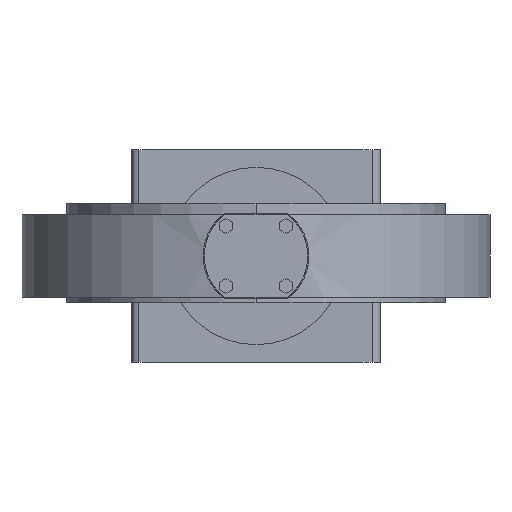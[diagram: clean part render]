
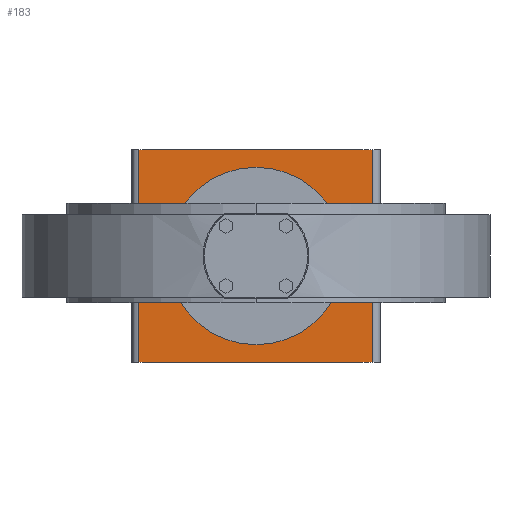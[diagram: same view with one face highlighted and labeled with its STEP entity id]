
A CAD part, front view. The second image highlights one B-rep face of the part: STEP entity #183.
In plain terms, the highlighted planar face has unit normal (0, -1, 0).
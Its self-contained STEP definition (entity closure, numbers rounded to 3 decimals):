
#183 = ADVANCED_FACE( '', ( #543, #544 ), #545, .T. );
#543 = FACE_OUTER_BOUND( '', #1101, .T. );
#544 = FACE_BOUND( '', #1102, .T. );
#545 = PLANE( '', #1103 );
#1101 = EDGE_LOOP( '', ( #2244, #2245, #2246, #2247 ) );
#1102 = EDGE_LOOP( '', ( #2248, #2249 ) );
#1103 = AXIS2_PLACEMENT_3D( '', #2250, #2251, #2252 );
#2244 = ORIENTED_EDGE( '', *, *, #3745, .T. );
#2245 = ORIENTED_EDGE( '', *, *, #3746, .F. );
#2246 = ORIENTED_EDGE( '', *, *, #3747, .F. );
#2247 = ORIENTED_EDGE( '', *, *, #3748, .T. );
#2248 = ORIENTED_EDGE( '', *, *, #3562, .T. );
#2249 = ORIENTED_EDGE( '', *, *, #3749, .T. );
#2250 = CARTESIAN_POINT( '', ( -165., 515., 150. ) );
#2251 = DIRECTION( '', ( 0., -1., 0. ) );
#2252 = DIRECTION( '', ( -1., 0., 0. ) );
#3562 = EDGE_CURVE( '', #4347, #4351, #4353, .T. );
#3745 = EDGE_CURVE( '', #4655, #4656, #4657, .T. );
#3746 = EDGE_CURVE( '', #4658, #4656, #4659, .T. );
#3747 = EDGE_CURVE( '', #4660, #4658, #4661, .T. );
#3748 = EDGE_CURVE( '', #4660, #4655, #4662, .T. );
#3749 = EDGE_CURVE( '', #4351, #4347, #4663, .T. );
#4347 = VERTEX_POINT( '', #5968 );
#4351 = VERTEX_POINT( '', #5973 );
#4353 = CIRCLE( '', #5976, 125. );
#4655 = VERTEX_POINT( '', #6554 );
#4656 = VERTEX_POINT( '', #6555 );
#4657 = LINE( '', #6556, #6557 );
#4658 = VERTEX_POINT( '', #6558 );
#4659 = LINE( '', #6559, #6560 );
#4660 = VERTEX_POINT( '', #6561 );
#4661 = LINE( '', #6562, #6563 );
#4662 = LINE( '', #6564, #6565 );
#4663 = CIRCLE( '', #6566, 125. );
#5968 = CARTESIAN_POINT( '', ( 125., 515., 0. ) );
#5973 = CARTESIAN_POINT( '', ( -125., 515., 0. ) );
#5976 = AXIS2_PLACEMENT_3D( '', #7592, #7593, #7594 );
#6554 = CARTESIAN_POINT( '', ( -165., 515., -150. ) );
#6555 = CARTESIAN_POINT( '', ( 165., 515., -150. ) );
#6556 = CARTESIAN_POINT( '', ( -165., 515., -150. ) );
#6557 = VECTOR( '', #7933, 1. );
#6558 = CARTESIAN_POINT( '', ( 165., 515., 150. ) );
#6559 = CARTESIAN_POINT( '', ( 165., 515., 150. ) );
#6560 = VECTOR( '', #7934, 1. );
#6561 = CARTESIAN_POINT( '', ( -165., 515., 150. ) );
#6562 = CARTESIAN_POINT( '', ( -165., 515., 150. ) );
#6563 = VECTOR( '', #7935, 1. );
#6564 = CARTESIAN_POINT( '', ( -165., 515., 150. ) );
#6565 = VECTOR( '', #7936, 1. );
#6566 = AXIS2_PLACEMENT_3D( '', #7937, #7938, #7939 );
#7592 = CARTESIAN_POINT( '', ( 0., 515., 0. ) );
#7593 = DIRECTION( '', ( 0., 1., 0. ) );
#7594 = DIRECTION( '', ( 1., 0., 0. ) );
#7933 = DIRECTION( '', ( 1., 0., 0. ) );
#7934 = DIRECTION( '', ( 0., 0., -1. ) );
#7935 = DIRECTION( '', ( 1., 0., 0. ) );
#7936 = DIRECTION( '', ( 0., 0., -1. ) );
#7937 = CARTESIAN_POINT( '', ( 0., 515., 0. ) );
#7938 = DIRECTION( '', ( 0., 1., 0. ) );
#7939 = DIRECTION( '', ( 1., 0., 0. ) );
